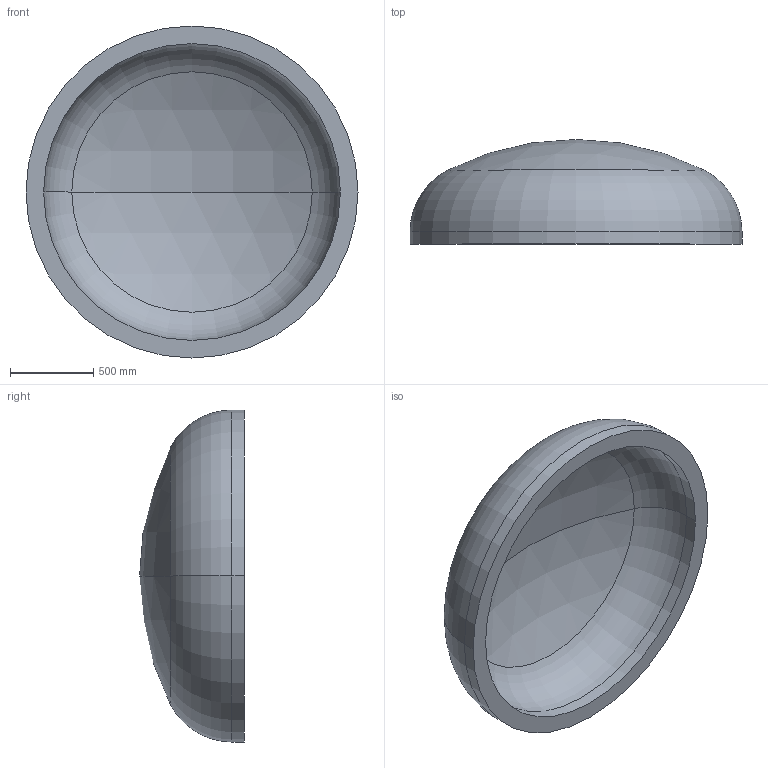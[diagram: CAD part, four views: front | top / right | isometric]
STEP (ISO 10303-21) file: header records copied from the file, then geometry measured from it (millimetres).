
FILE_DESCRIPTION (( 'STEP AP203' ), '1' );
FILE_NAME ('DIN 28013 Korbbogenform_-_Boden DIN 28013 - 2000 x 75 - I - s=106.step', '2016-07-01T14:10:58', ( '' ), ( '' ), 'SwSTEP 2.0', 'SolidWorks 2013', '' );
FILE_SCHEMA (( 'CONFIG_CONTROL_DESIGN' ));
Length unit declared in the file: millimetre
Products named in the file (1): DIN 28013 Korbbogenform_-_Boden DIN 28013 - 2000 x 75 - I - s=106
Bounding box: 2000 x 630.76 x 2000 mm (x, y, z)
Volume: 478796421.2 mm3; surface area: 9688143.6 mm2
Topology: 1 solids, 1 shells, 13 faces, 24 edges, 14 vertices
Faces by surface type: torus 4, cylinder 4, sphere 4, plane 1
Entity records: 407 total; most frequent: DIRECTION 72, CARTESIAN_POINT 52, ORIENTED_EDGE 48, AXIS2_PLACEMENT_3D 34, EDGE_CURVE 24, CIRCLE 20, EDGE_LOOP 14, VERTEX_POINT 14
